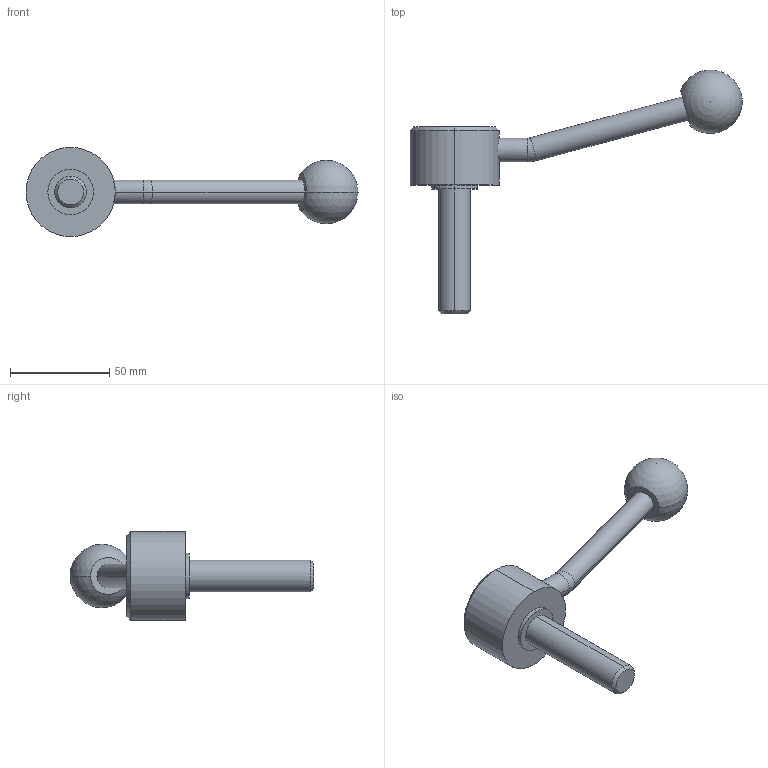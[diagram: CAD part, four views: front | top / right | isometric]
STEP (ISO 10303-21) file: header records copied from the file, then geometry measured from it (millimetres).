
FILE_DESCRIPTION (( 'STEP AP214' ), '1' );
FILE_NAME ('125.5-45-M16-63-E.step', '2020-02-18T11:44:18', ( '' ), ( '' ), 'SwSTEP 2.0', 'SolidWorks 2019', '' );
FILE_SCHEMA (( 'AUTOMOTIVE_DESIGN' ));
Length unit declared in the file: millimetre
Products named in the file (1): 125.5-45-M16-63-E
Bounding box: 167.44 x 122.99 x 45 mm (x, y, z)
Volume: 87452.3 mm3; surface area: 17039 mm2
Topology: 1 solids, 1 shells, 26 faces, 55 edges, 34 vertices
Faces by surface type: cylinder 12, plane 6, cone 4, torus 2, sphere 2
Entity records: 850 total; most frequent: CARTESIAN_POINT 192, DIRECTION 134, ORIENTED_EDGE 100, AXIS2_PLACEMENT_3D 59, EDGE_CURVE 50, CIRCLE 32, EDGE_LOOP 31, VERTEX_POINT 31
